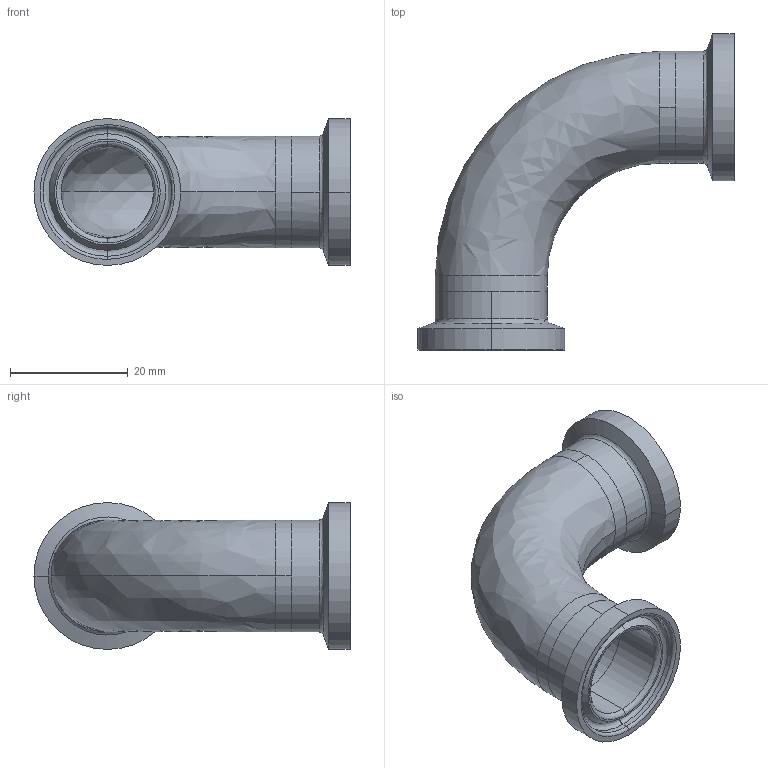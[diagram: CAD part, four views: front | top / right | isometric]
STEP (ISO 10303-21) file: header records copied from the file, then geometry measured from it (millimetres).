
FILE_DESCRIPTION (( 'STEP AP214' ), '1' );
FILE_NAME ('TEG2C6L.75-...STEP', '2016-05-22T10:35:38', ( 'eran' ), ( '' ), 'SwSTEP 2.0', 'SolidWorks 2016', '' );
FILE_SCHEMA (( 'AUTOMOTIVE_DESIGN' ));
Length unit declared in the file: millimetre
Products named in the file (1): TEG2C6L.75-..
Bounding box: 53.8 x 53.8 x 24.99 mm (x, y, z)
Volume: 7507.7 mm3; surface area: 9260.4 mm2
Topology: 3 solids, 3 shells, 60 faces, 136 edges, 84 vertices
Faces by surface type: cylinder 24, bspline 20, plane 8, cone 8
Entity records: 2000 total; most frequent: CARTESIAN_POINT 605, DIRECTION 306, ORIENTED_EDGE 272, AXIS2_PLACEMENT_3D 137, EDGE_CURVE 136, CIRCLE 96, VERTEX_POINT 84, EDGE_LOOP 68
